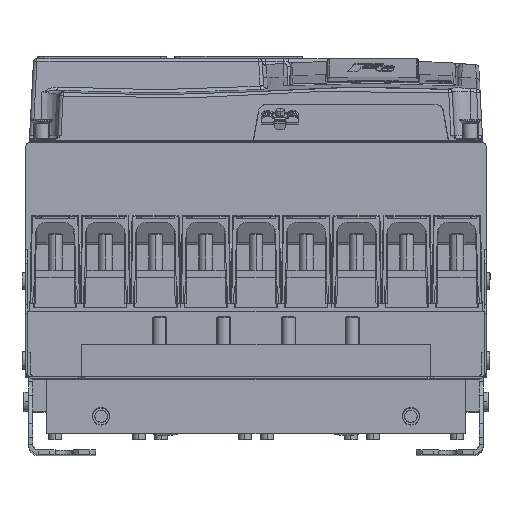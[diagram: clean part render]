
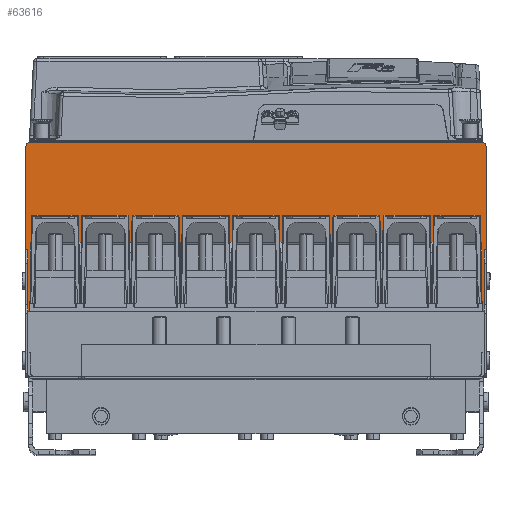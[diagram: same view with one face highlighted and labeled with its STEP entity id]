
A CAD part, top view. The second image highlights one B-rep face of the part: STEP entity #63616.
In plain terms, the highlighted planar face has unit normal (0, 0, 1).
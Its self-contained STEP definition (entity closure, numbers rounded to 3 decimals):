
#1474 = ORIENTED_EDGE ( 'NONE', *, *, #25885, .F. ) ;
#1865 = CARTESIAN_POINT ( 'NONE',  ( 165., -77., 453. ) ) ;
#2597 = VERTEX_POINT ( 'NONE', #69891 ) ;
#6469 = DIRECTION ( 'NONE',  ( 0., 1., 0. ) ) ;
#8427 = DIRECTION ( 'NONE',  ( 0., 0., -1. ) ) ;
#9384 = ORIENTED_EDGE ( 'NONE', *, *, #45614, .T. ) ;
#9387 = CARTESIAN_POINT ( 'NONE',  ( -163.5, -167.9, 453. ) ) ;
#10919 = VERTEX_POINT ( 'NONE', #39827 ) ;
#11113 = CARTESIAN_POINT ( 'NONE',  ( 0., -167.9, 453. ) ) ;
#12511 = DIRECTION ( 'NONE',  ( 0., 1., 0. ) ) ;
#13840 = EDGE_CURVE ( 'NONE', #2597, #102496, #73559, .T. ) ;
#14039 = FACE_OUTER_BOUND ( 'NONE', #90667, .T. ) ;
#14054 = EDGE_CURVE ( 'NONE', #78470, #2597, #63676, .T. ) ;
#14868 = CARTESIAN_POINT ( 'NONE',  ( 165., -3.5, 453. ) ) ;
#16351 = DIRECTION ( 'NONE',  ( 0., 1., 0. ) ) ;
#16930 = CARTESIAN_POINT ( 'NONE',  ( 0., 0., 453. ) ) ;
#18003 = ORIENTED_EDGE ( 'NONE', *, *, #91237, .T. ) ;
#18094 = ORIENTED_EDGE ( 'NONE', *, *, #13840, .F. ) ;
#20037 = VECTOR ( 'NONE', #94732, 1000. ) ;
#20262 = LINE ( 'NONE', #35973, #102259 ) ;
#21262 = EDGE_CURVE ( 'NONE', #68324, #72974, #92993, .T. ) ;
#21375 = AXIS2_PLACEMENT_3D ( 'NONE', #65011, #8427, #71370 ) ;
#21904 = LINE ( 'NONE', #70169, #94876 ) ;
#22401 = DIRECTION ( 'NONE',  ( 0., 1., 0. ) ) ;
#22653 = DIRECTION ( 'NONE',  ( 1., 0., 0. ) ) ;
#23689 = CARTESIAN_POINT ( 'NONE',  ( -165.001, -77., 453. ) ) ;
#24197 = CARTESIAN_POINT ( 'NONE',  ( 161.5, 0., 453. ) ) ;
#25885 = EDGE_CURVE ( 'NONE', #35909, #78470, #48946, .T. ) ;
#26405 = DIRECTION ( 'NONE',  ( -1., 0., 0. ) ) ;
#27945 = CARTESIAN_POINT ( 'NONE',  ( -163.5, -77., 453. ) ) ;
#30530 = CARTESIAN_POINT ( 'NONE',  ( -161.5, 0., 453. ) ) ;
#35909 = VERTEX_POINT ( 'NONE', #1865 ) ;
#35973 = CARTESIAN_POINT ( 'NONE',  ( -165., -3.5, 453. ) ) ;
#38851 = VECTOR ( 'NONE', #48354, 1000. ) ;
#38929 = LINE ( 'NONE', #88294, #61599 ) ;
#39827 = CARTESIAN_POINT ( 'NONE',  ( -165., -77., 453. ) ) ;
#41324 = EDGE_CURVE ( 'NONE', #45572, #81239, #88436, .T. ) ;
#45572 = VERTEX_POINT ( 'NONE', #24197 ) ;
#45614 = EDGE_CURVE ( 'NONE', #10919, #51253, #86706, .T. ) ;
#47861 = EDGE_CURVE ( 'NONE', #72974, #45572, #56253, .T. ) ;
#48354 = DIRECTION ( 'NONE',  ( 1., 0., 0. ) ) ;
#48376 = ORIENTED_EDGE ( 'NONE', *, *, #61027, .T. ) ;
#48946 = LINE ( 'NONE', #97813, #93811 ) ;
#49642 = ORIENTED_EDGE ( 'NONE', *, *, #93437, .F. ) ;
#51253 = VERTEX_POINT ( 'NONE', #27945 ) ;
#56253 = LINE ( 'NONE', #16930, #38851 ) ;
#56327 = ORIENTED_EDGE ( 'NONE', *, *, #41324, .F. ) ;
#60355 = VECTOR ( 'NONE', #22653, 1000. ) ;
#61027 = EDGE_CURVE ( 'NONE', #35909, #81239, #38929, .T. ) ;
#61599 = VECTOR ( 'NONE', #6469, 1000. ) ;
#62274 = CARTESIAN_POINT ( 'NONE',  ( 0., 0., 453. ) ) ;
#63616 = ADVANCED_FACE ( 'NONE', ( #14039 ), #78068, .F. ) ;
#63676 = LINE ( 'NONE', #86317, #20037 ) ;
#64035 = CARTESIAN_POINT ( 'NONE',  ( -161.5, -3.5, 453. ) ) ;
#65011 = CARTESIAN_POINT ( 'NONE',  ( 161.5, -3.5, 453. ) ) ;
#68053 = ORIENTED_EDGE ( 'NONE', *, *, #47861, .F. ) ;
#68324 = VERTEX_POINT ( 'NONE', #93413 ) ;
#69891 = CARTESIAN_POINT ( 'NONE',  ( 163.5, -167.9, 453. ) ) ;
#70169 = CARTESIAN_POINT ( 'NONE',  ( -163.5, 0., 453. ) ) ;
#71370 = DIRECTION ( 'NONE',  ( 0., 1., 0. ) ) ;
#71373 = CARTESIAN_POINT ( 'NONE',  ( 163.5, -77., 453. ) ) ;
#72974 = VERTEX_POINT ( 'NONE', #30530 ) ;
#73559 = LINE ( 'NONE', #11113, #80341 ) ;
#77857 = AXIS2_PLACEMENT_3D ( 'NONE', #64035, #88233, #16351 ) ;
#78068 = PLANE ( 'NONE',  #102265 ) ;
#78470 = VERTEX_POINT ( 'NONE', #71373 ) ;
#80341 = VECTOR ( 'NONE', #89845, 1000. ) ;
#81239 = VERTEX_POINT ( 'NONE', #14868 ) ;
#84286 = DIRECTION ( 'NONE',  ( 0., -1., 0. ) ) ;
#86317 = CARTESIAN_POINT ( 'NONE',  ( 163.5, 0., 453. ) ) ;
#86706 = LINE ( 'NONE', #23689, #60355 ) ;
#88233 = DIRECTION ( 'NONE',  ( 0., 0., -1. ) ) ;
#88294 = CARTESIAN_POINT ( 'NONE',  ( 165., -3.5, 453. ) ) ;
#88436 = CIRCLE ( 'NONE', #21375, 3.5 ) ;
#89845 = DIRECTION ( 'NONE',  ( -1., 0., 0. ) ) ;
#90516 = ORIENTED_EDGE ( 'NONE', *, *, #21262, .F. ) ;
#90667 = EDGE_LOOP ( 'NONE', ( #90516, #18003, #9384, #49642, #18094, #92132, #1474, #48376, #56327, #68053 ) ) ;
#91237 = EDGE_CURVE ( 'NONE', #68324, #10919, #20262, .T. ) ;
#92132 = ORIENTED_EDGE ( 'NONE', *, *, #14054, .F. ) ;
#92993 = CIRCLE ( 'NONE', #77857, 3.5 ) ;
#93413 = CARTESIAN_POINT ( 'NONE',  ( -165., -3.5, 453. ) ) ;
#93437 = EDGE_CURVE ( 'NONE', #102496, #51253, #21904, .T. ) ;
#93811 = VECTOR ( 'NONE', #26405, 1000. ) ;
#94343 = DIRECTION ( 'NONE',  ( 0., 0., -1. ) ) ;
#94732 = DIRECTION ( 'NONE',  ( 0., -1., 0. ) ) ;
#94876 = VECTOR ( 'NONE', #12511, 1000. ) ;
#97813 = CARTESIAN_POINT ( 'NONE',  ( 165.001, -77., 453. ) ) ;
#102259 = VECTOR ( 'NONE', #84286, 1000. ) ;
#102265 = AXIS2_PLACEMENT_3D ( 'NONE', #62274, #94343, #22401 ) ;
#102496 = VERTEX_POINT ( 'NONE', #9387 ) ;
